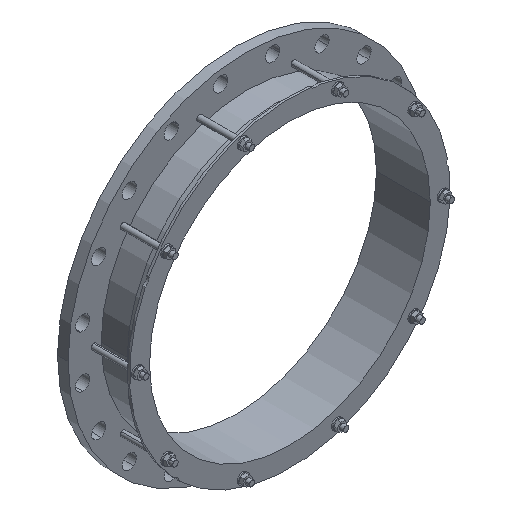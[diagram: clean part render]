
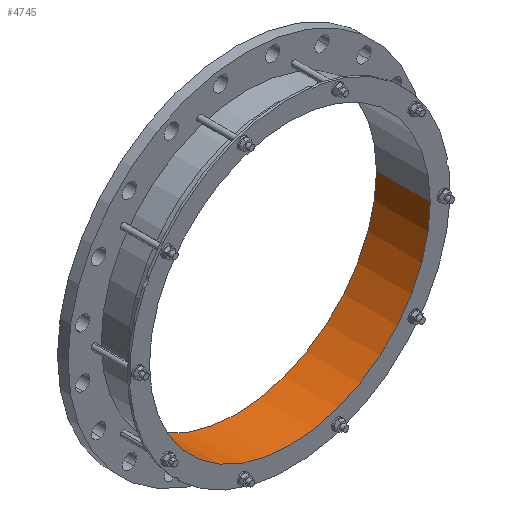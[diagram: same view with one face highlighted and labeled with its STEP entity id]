
A CAD part, isometric view. The second image highlights one B-rep face of the part: STEP entity #4745.
In plain terms, the highlighted cylindrical face has radius 306.5 mm (diameter 613 mm), a partial arc.
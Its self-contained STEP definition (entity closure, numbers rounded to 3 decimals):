
#7=CARTESIAN_POINT('',(0.,23.,0.));
#8=DIRECTION('',(0.,1.,0.));
#9=DIRECTION('',(1.,0.,0.));
#10=AXIS2_PLACEMENT_3D('',#7,#8,#9);
#1622=CARTESIAN_POINT('',(0.,-94.452,0.));
#1623=DIRECTION('',(0.,1.,0.));
#1624=DIRECTION('',(1.,0.,0.));
#1625=AXIS2_PLACEMENT_3D('',#1622,#1623,#1624);
#1627=DIRECTION('',(0.,1.,0.));
#1628=VECTOR('',#1627,117.452);
#1629=CARTESIAN_POINT('',(306.5,-94.452,0.));
#1630=LINE('',#1629,#1628);
#1631=DIRECTION('',(0.,1.,0.));
#1632=VECTOR('',#1631,117.452);
#1633=CARTESIAN_POINT('',(-306.5,-94.452,0.));
#1634=LINE('',#1633,#1632);
#3161=CARTESIAN_POINT('',(306.5,-94.452,0.));
#3162=CARTESIAN_POINT('',(306.5,23.,0.));
#3163=VERTEX_POINT('',#3161);
#3164=VERTEX_POINT('',#3162);
#3169=CARTESIAN_POINT('',(-306.5,-94.452,0.));
#3170=CARTESIAN_POINT('',(-306.5,23.,0.));
#3171=VERTEX_POINT('',#3169);
#3172=VERTEX_POINT('',#3170);
#4732=CARTESIAN_POINT('',(0.,-100.325,0.));
#4733=DIRECTION('',(0.,1.,0.));
#4734=DIRECTION('',(-1.,0.,0.));
#4735=AXIS2_PLACEMENT_3D('',#4732,#4733,#4734);
#4736=CYLINDRICAL_SURFACE('',#4735,306.5);
#4738=ORIENTED_EDGE('',*,*,#4737,.F.);
#4739=ORIENTED_EDGE('',*,*,#4725,.T.);
#4741=ORIENTED_EDGE('',*,*,#4740,.T.);
#4742=ORIENTED_EDGE('',*,*,#3904,.F.);
#4743=EDGE_LOOP('',(#4738,#4739,#4741,#4742));
#4744=FACE_OUTER_BOUND('',#4743,.F.);
#4745=ADVANCED_FACE('',(#4744),#4736,.F.);
#11=CIRCLE('',#10,306.5);
#1626=CIRCLE('',#1625,306.5);
#3904=EDGE_CURVE('',#3164,#3172,#11,.T.);
#4725=EDGE_CURVE('',#3163,#3171,#1626,.T.);
#4737=EDGE_CURVE('',#3163,#3164,#1630,.T.);
#4740=EDGE_CURVE('',#3171,#3172,#1634,.T.);
